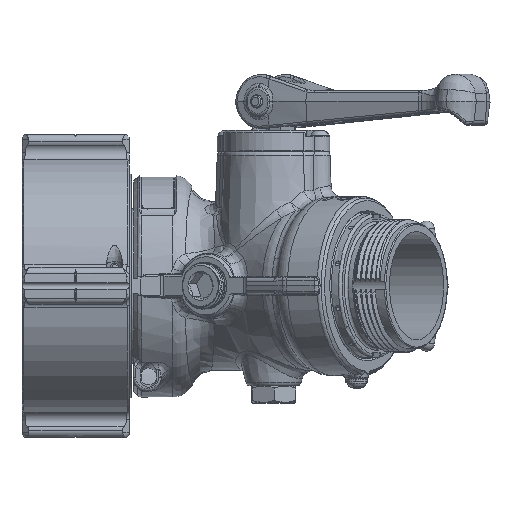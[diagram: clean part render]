
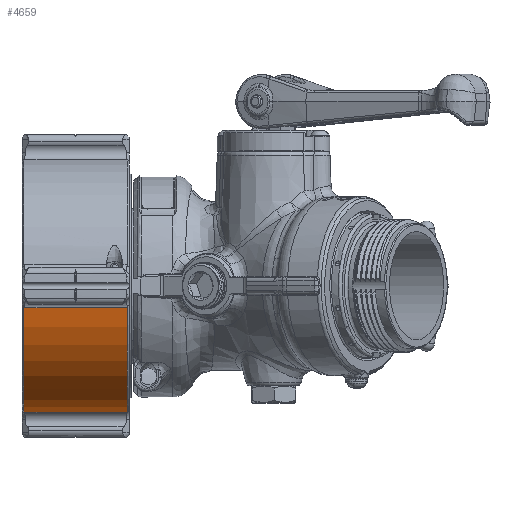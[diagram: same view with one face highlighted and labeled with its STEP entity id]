
A CAD part, top view. The second image highlights one B-rep face of the part: STEP entity #4659.
In plain terms, the highlighted cylindrical face has radius 74.93 mm (diameter 149.86 mm), a partial arc.
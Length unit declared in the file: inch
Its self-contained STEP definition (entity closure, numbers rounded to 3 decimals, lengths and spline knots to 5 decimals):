
#1070 = CARTESIAN_POINT ( 'NONE',  ( -2.12, -2.90732, 0.5 ) ) ;
#2849 = CARTESIAN_POINT ( 'NONE',  ( 0.265, -2.90732, 0.5 ) ) ;
#4659 = ADVANCED_FACE ( 'NONE', ( #85441 ), #86813, .T. ) ;
#5304 = LINE ( 'NONE', #14572, #16909 ) ;
#6952 = DIRECTION ( 'NONE',  ( -1., 0., 0. ) ) ;
#10739 = DIRECTION ( 'NONE',  ( -1., 0., 0. ) ) ;
#12290 = ORIENTED_EDGE ( 'NONE', *, *, #82464, .T. ) ;
#14572 = CARTESIAN_POINT ( 'NONE',  ( 0.36, -0.5, 2.90732 ) ) ;
#14759 = VERTEX_POINT ( 'NONE', #2849 ) ;
#16734 = VECTOR ( 'NONE', #70579, 39.37008 ) ;
#16909 = VECTOR ( 'NONE', #6952, 39.37008 ) ;
#22615 = DIRECTION ( 'NONE',  ( -1., 0., 0. ) ) ;
#22802 = CARTESIAN_POINT ( 'NONE',  ( 0.36, 0., 0. ) ) ;
#23656 = AXIS2_PLACEMENT_3D ( 'NONE', #22802, #39398, #96539 ) ;
#34555 = ORIENTED_EDGE ( 'NONE', *, *, #104979, .T. ) ;
#38641 = CARTESIAN_POINT ( 'NONE',  ( -2.12, -0.5, 2.90732 ) ) ;
#39398 = DIRECTION ( 'NONE',  ( -1., 0., 0. ) ) ;
#44332 = ORIENTED_EDGE ( 'NONE', *, *, #87966, .F. ) ;
#47510 = DIRECTION ( 'NONE',  ( 0., 0., 1. ) ) ;
#59734 = EDGE_LOOP ( 'NONE', ( #44332, #12290, #34555, #99816 ) ) ;
#62564 = VERTEX_POINT ( 'NONE', #105914 ) ;
#63260 = LINE ( 'NONE', #63370, #16734 ) ;
#63370 = CARTESIAN_POINT ( 'NONE',  ( 0.36, -2.90732, 0.5 ) ) ;
#64139 = CIRCLE ( 'NONE', #64569, 2.95 ) ;
#64569 = AXIS2_PLACEMENT_3D ( 'NONE', #77798, #10739, #93093 ) ;
#70579 = DIRECTION ( 'NONE',  ( -1., 0., 0. ) ) ;
#77195 = VERTEX_POINT ( 'NONE', #1070 ) ;
#77798 = CARTESIAN_POINT ( 'NONE',  ( -2.12, 0., 0. ) ) ;
#81846 = CIRCLE ( 'NONE', #93206, 2.95 ) ;
#82464 = EDGE_CURVE ( 'NONE', #14759, #62564, #81846, .T. ) ;
#85441 = FACE_OUTER_BOUND ( 'NONE', #59734, .T. ) ;
#86813 = CYLINDRICAL_SURFACE ( 'NONE', #23656, 2.95 ) ;
#87966 = EDGE_CURVE ( 'NONE', #14759, #77195, #63260, .T. ) ;
#93093 = DIRECTION ( 'NONE',  ( 0., 0., -1. ) ) ;
#93206 = AXIS2_PLACEMENT_3D ( 'NONE', #104970, #22615, #47510 ) ;
#96539 = DIRECTION ( 'NONE',  ( 0., 0., 1. ) ) ;
#99816 = ORIENTED_EDGE ( 'NONE', *, *, #105374, .F. ) ;
#101846 = VERTEX_POINT ( 'NONE', #38641 ) ;
#104970 = CARTESIAN_POINT ( 'NONE',  ( 0.265, 0., 0. ) ) ;
#104979 = EDGE_CURVE ( 'NONE', #62564, #101846, #5304, .T. ) ;
#105374 = EDGE_CURVE ( 'NONE', #77195, #101846, #64139, .T. ) ;
#105914 = CARTESIAN_POINT ( 'NONE',  ( 0.265, -0.5, 2.90732 ) ) ;
